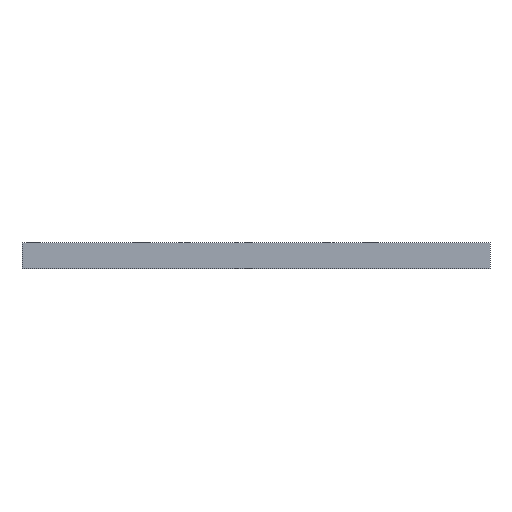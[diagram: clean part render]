
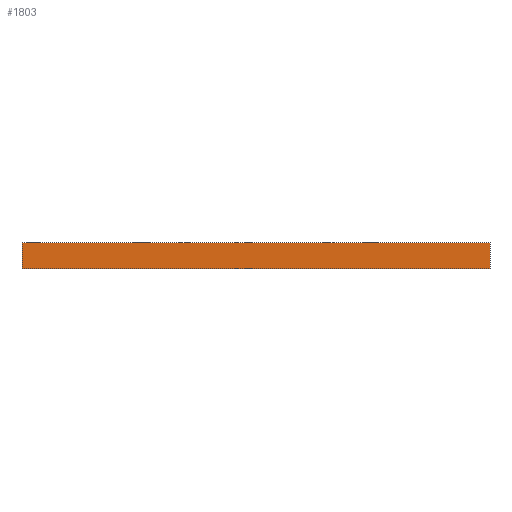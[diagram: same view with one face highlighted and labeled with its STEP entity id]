
A CAD part, front view. The second image highlights one B-rep face of the part: STEP entity #1803.
In plain terms, the highlighted planar face has unit normal (0, -1, 0).
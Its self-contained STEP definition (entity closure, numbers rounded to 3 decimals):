
#1783=AXIS2_PLACEMENT_3D('Plane Axis2P3D',#1780,#1781,#1782) ;
#100=CARTESIAN_POINT('Vertex',(-90.,-92.5,10.)) ;
#103=CARTESIAN_POINT('Line Origine',(0.,-92.5,10.)) ;
#107=CARTESIAN_POINT('Vertex',(90.,-92.5,10.)) ;
#1761=CARTESIAN_POINT('Line Origine',(90.,-92.5,5.)) ;
#1765=CARTESIAN_POINT('Vertex',(90.,-92.5,0.)) ;
#1780=CARTESIAN_POINT('Axis2P3D Location',(90.,-92.5,0.)) ;
#1785=CARTESIAN_POINT('Line Origine',(-90.,-92.5,5.)) ;
#1789=CARTESIAN_POINT('Vertex',(-90.,-92.5,0.)) ;
#1792=CARTESIAN_POINT('Line Origine',(0.,-92.5,0.)) ;
#104=DIRECTION('Vector Direction',(-1.,0.,0.)) ;
#1762=DIRECTION('Vector Direction',(0.,0.,1.)) ;
#1781=DIRECTION('Axis2P3D Direction',(0.,1.,-0.)) ;
#1782=DIRECTION('Axis2P3D XDirection',(-1.,0.,0.)) ;
#1786=DIRECTION('Vector Direction',(0.,0.,1.)) ;
#1793=DIRECTION('Vector Direction',(-1.,0.,0.)) ;
#105=VECTOR('Line Direction',#104,1.) ;
#1763=VECTOR('Line Direction',#1762,1.) ;
#1787=VECTOR('Line Direction',#1786,1.) ;
#1794=VECTOR('Line Direction',#1793,1.) ;
#1798=ORIENTED_EDGE('',*,*,#1791,.F.) ;
#1799=ORIENTED_EDGE('',*,*,#1796,.T.) ;
#1800=ORIENTED_EDGE('',*,*,#1767,.T.) ;
#1801=ORIENTED_EDGE('',*,*,#109,.F.) ;
#1803=ADVANCED_FACE('PartBody',(#1802),#1784,.F.) ;
#109=EDGE_CURVE('',#101,#108,#106,.F.) ;
#1767=EDGE_CURVE('',#1766,#108,#1764,.T.) ;
#1791=EDGE_CURVE('',#1790,#101,#1788,.T.) ;
#1796=EDGE_CURVE('',#1790,#1766,#1795,.F.) ;
#1797=EDGE_LOOP('',(#1798,#1799,#1800,#1801)) ;
#1802=FACE_OUTER_BOUND('',#1797,.T.) ;
#106=LINE('Line',#103,#105) ;
#1764=LINE('Line',#1761,#1763) ;
#1788=LINE('Line',#1785,#1787) ;
#1795=LINE('Line',#1792,#1794) ;
#1784=PLANE('Plane',#1783) ;
#101=VERTEX_POINT('',#100) ;
#108=VERTEX_POINT('',#107) ;
#1766=VERTEX_POINT('',#1765) ;
#1790=VERTEX_POINT('',#1789) ;
